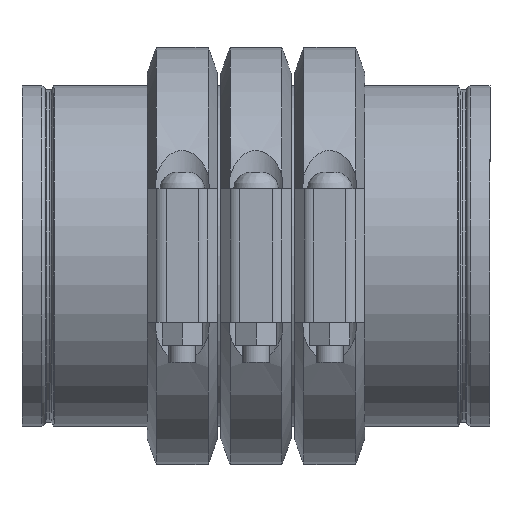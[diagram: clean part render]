
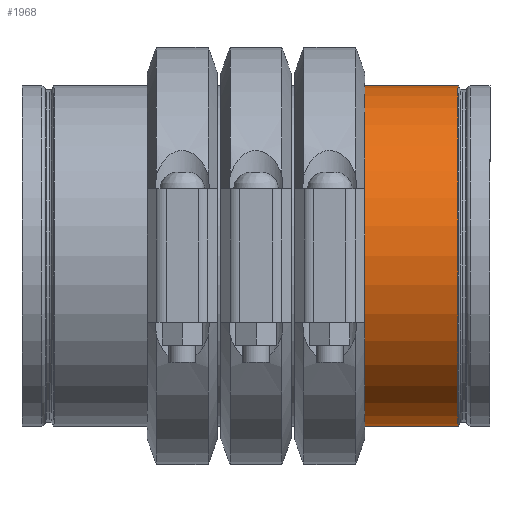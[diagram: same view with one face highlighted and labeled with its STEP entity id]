
A CAD part, top view. The second image highlights one B-rep face of the part: STEP entity #1968.
In plain terms, the highlighted cylindrical face has radius 161.925 mm (diameter 323.85 mm), a full revolution.
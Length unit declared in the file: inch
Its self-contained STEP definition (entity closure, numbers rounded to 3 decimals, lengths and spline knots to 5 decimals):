
#82=LINE('',#3210,#175);
#175=VECTOR('',#2573,6.375);
#268=CYLINDRICAL_SURFACE('',#2213,6.375);
#384=FACE_OUTER_BOUND('',#492,.T.);
#492=EDGE_LOOP('',(#1358,#1359,#1360,#1361,#1362,#1363,#1364,#1365));
#647=CIRCLE('',#2209,6.375);
#648=CIRCLE('',#2210,6.375);
#650=CIRCLE('',#2212,6.375);
#651=CIRCLE('',#2214,6.375);
#652=CIRCLE('',#2215,6.375);
#653=CIRCLE('',#2216,6.375);
#812=VERTEX_POINT('',#3197);
#813=VERTEX_POINT('',#3198);
#814=VERTEX_POINT('',#3200);
#815=VERTEX_POINT('',#3205);
#816=VERTEX_POINT('',#3206);
#817=VERTEX_POINT('',#3208);
#1027=EDGE_CURVE('',#812,#813,#647,.T.);
#1028=EDGE_CURVE('',#813,#814,#648,.T.);
#1030=EDGE_CURVE('',#814,#812,#650,.T.);
#1031=EDGE_CURVE('',#815,#816,#651,.T.);
#1032=EDGE_CURVE('',#817,#815,#652,.T.);
#1033=EDGE_CURVE('',#817,#813,#82,.T.);
#1034=EDGE_CURVE('',#816,#817,#653,.T.);
#1358=ORIENTED_EDGE('',*,*,#1031,.F.);
#1359=ORIENTED_EDGE('',*,*,#1032,.F.);
#1360=ORIENTED_EDGE('',*,*,#1033,.T.);
#1361=ORIENTED_EDGE('',*,*,#1027,.F.);
#1362=ORIENTED_EDGE('',*,*,#1030,.F.);
#1363=ORIENTED_EDGE('',*,*,#1028,.F.);
#1364=ORIENTED_EDGE('',*,*,#1033,.F.);
#1365=ORIENTED_EDGE('',*,*,#1034,.F.);
#1968=ADVANCED_FACE('',(#384),#268,.T.);
#2209=AXIS2_PLACEMENT_3D('',#3199,#2559,#2560);
#2210=AXIS2_PLACEMENT_3D('',#3201,#2561,#2562);
#2212=AXIS2_PLACEMENT_3D('',#3203,#2565,#2566);
#2213=AXIS2_PLACEMENT_3D('',#3204,#2567,#2568);
#2214=AXIS2_PLACEMENT_3D('',#3207,#2569,#2570);
#2215=AXIS2_PLACEMENT_3D('',#3209,#2571,#2572);
#2216=AXIS2_PLACEMENT_3D('',#3211,#2574,#2575);
#2559=DIRECTION('center_axis',(-1.,0.,0.));
#2560=DIRECTION('ref_axis',(0.,-1.,0.));
#2561=DIRECTION('center_axis',(-1.,0.,0.));
#2562=DIRECTION('ref_axis',(0.,-1.,0.));
#2565=DIRECTION('center_axis',(-1.,0.,0.));
#2566=DIRECTION('ref_axis',(0.,-1.,0.));
#2567=DIRECTION('center_axis',(1.,0.,0.));
#2568=DIRECTION('ref_axis',(0.,1.,0.));
#2569=DIRECTION('center_axis',(1.,0.,0.));
#2570=DIRECTION('ref_axis',(0.,-1.,0.));
#2571=DIRECTION('center_axis',(1.,0.,0.));
#2572=DIRECTION('ref_axis',(0.,-1.,0.));
#2573=DIRECTION('',(-1.,0.,0.));
#2574=DIRECTION('center_axis',(1.,0.,0.));
#2575=DIRECTION('ref_axis',(0.,-1.,0.));
#3197=CARTESIAN_POINT('',(1.249,6.375,0.));
#3198=CARTESIAN_POINT('',(1.249,-6.375,0.));
#3199=CARTESIAN_POINT('Origin',(1.249,0.,0.));
#3200=CARTESIAN_POINT('',(1.249,0.,6.375));
#3201=CARTESIAN_POINT('Origin',(1.249,0.,0.));
#3203=CARTESIAN_POINT('Origin',(1.249,0.,0.));
#3204=CARTESIAN_POINT('Origin',(3.01773,0.,0.));
#3205=CARTESIAN_POINT('',(4.78523,6.375,0.));
#3206=CARTESIAN_POINT('',(4.78523,0.,6.375));
#3207=CARTESIAN_POINT('Origin',(4.78523,0.,0.));
#3208=CARTESIAN_POINT('',(4.78523,-6.375,0.));
#3209=CARTESIAN_POINT('Origin',(4.78523,0.,0.));
#3210=CARTESIAN_POINT('',(3.01773,-6.375,0.));
#3211=CARTESIAN_POINT('Origin',(4.78523,0.,0.));
